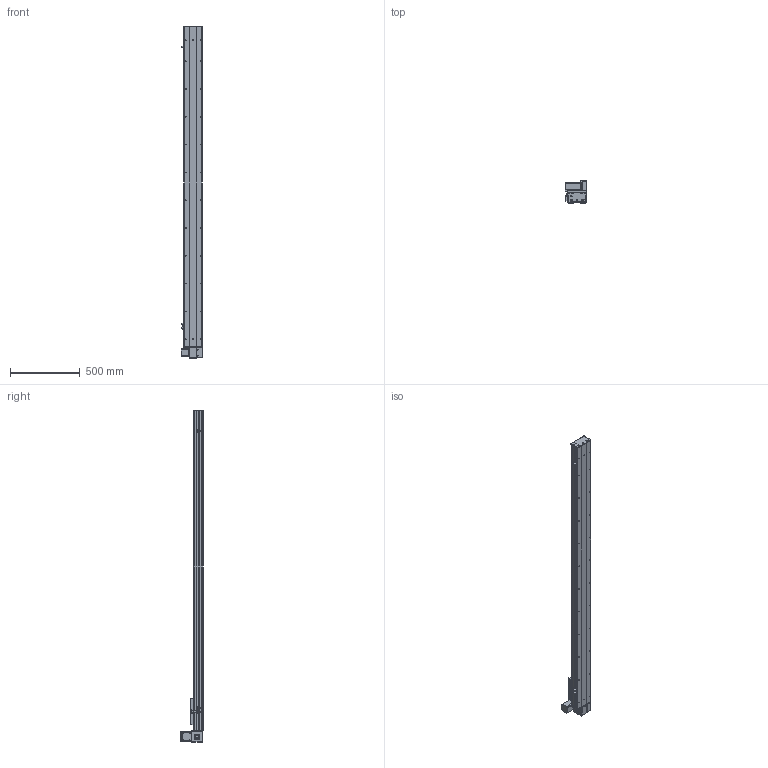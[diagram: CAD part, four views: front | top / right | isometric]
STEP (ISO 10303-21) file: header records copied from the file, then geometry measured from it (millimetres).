
FILE_DESCRIPTION (( 'STEP AP203' ), '1' );
FILE_NAME ('Y135CB-D90-S2000-UL-P400W.STEP', '2020-02-18T07:50:10', ( '微软用户' ), ( '微软中国' ), 'SwSTEP 2.0', 'SolidWorks 2017', '' );
FILE_SCHEMA (( 'CONFIG_CONTROL_DESIGN' ));
Length unit declared in the file: millimetre
Products named in the file (18): 00B-俋欶BM--; 5CB --掛极耜裔啣-; Y10B--々湍喘謫眊--666; C-詩湍揤踡え-陔; Y135CB-耜裔; Y135CB-D90-S2000-UL-P400W; 135CB--詩湍-CE; 135CB---遴掛极.-; Y100-135俋离換覜ん--; 35CB---喘謫眊楊擘啣; Y135C-陔俋离換覜結え-; 0B-埴倛裔啣; 5C--俋欶; 0B-源倛裔啣; C-雄赽釱--; 0B-萇儂楊擘啣; Y10B-耜蚾蟀諉啣----; san松下电机400不带刹车----
Assembly tree (21 placements, depth 2):
  Y135CB-D90-S2000-UL-P400W
    Y135CB-耜裔
    135CB---遴掛极.-
    35CB---喘謫眊楊擘啣
    0B-埴倛裔啣
    0B-源倛裔啣
    0B-萇儂楊擘啣
    san松下电机400不带刹车----
    5CB --掛极耜裔啣-  x2
    C-詩湍揤踡え-陔  x2
    135CB--詩湍-CE
    Y100-135俋离換覜ん--  x3
    Y135C-陔俋离換覜結え-
    5C--俋欶
    C-雄赽釱--
    Y10B-耜蚾蟀諉啣----
    00B-俋欶BM--
    Y10B--々湍喘謫眊--666
Bounding box: 157 x 158.7 x 2388 mm (x, y, z)
Volume: 6983363.9 mm3; surface area: 2758742.2 mm2
Topology: 21 solids, 21 shells, 965 faces, 2617 edges, 1734 vertices
Faces by surface type: cylinder 493, plane 456, cone 16
Entity records: 30359 total; most frequent: DIRECTION 5045, CARTESIAN_POINT 5032, ORIENTED_EDGE 4710, EDGE_CURVE 2355, AXIS2_PLACEMENT_3D 1847, VERTEX_POINT 1562, LINE 1351, VECTOR 1351
